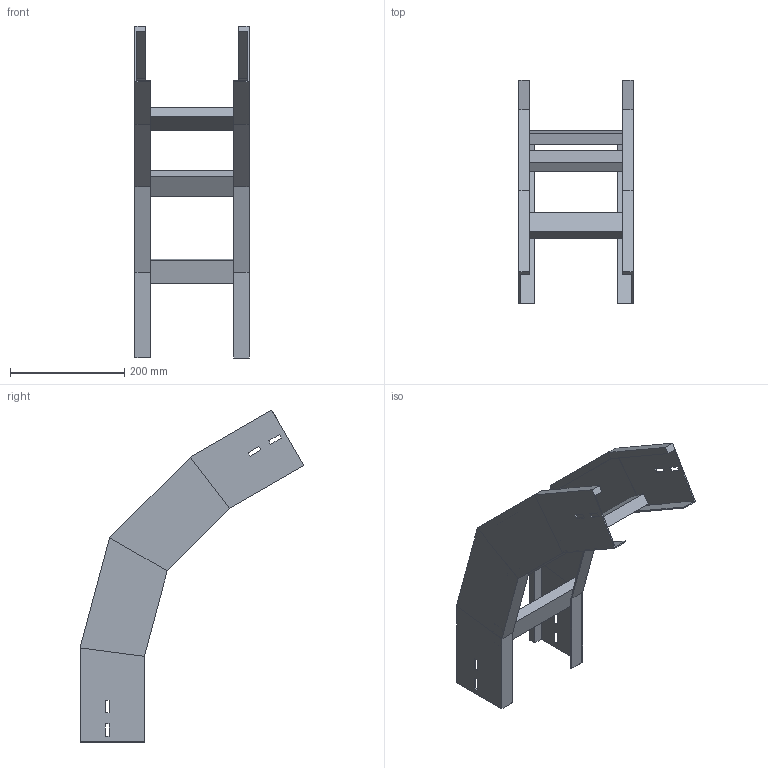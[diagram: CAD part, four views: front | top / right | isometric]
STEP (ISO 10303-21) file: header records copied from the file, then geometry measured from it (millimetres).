
FILE_DESCRIPTION (( 'STEP AP214' ), '1' );
FILE_NAME ('A2_41B3J200.step', '2025-02-21T14:58:12', ( '' ), ( '' ), 'SwSTEP 2.0', 'SolidWorks 2023', '' );
FILE_SCHEMA (( 'AUTOMOTIVE_DESIGN' ));
Length unit declared in the file: millimetre
Products named in the file (3): A2_41B3J200; TRAVERSINO_200; LONGH.DISCESA_60°_H112.5_R300
Assembly tree (5 placements, depth 2):
  A2_41B3J200
    LONGH.DISCESA_60°_H112.5_R300  x2
    TRAVERSINO_200  x3
Bounding box: 200 x 392.12 x 581.75 mm (x, y, z)
Volume: 1114009.3 mm3; surface area: 490481.2 mm2
Topology: 5 solids, 5 shells, 118 faces, 276 edges, 168 vertices
Faces by surface type: plane 118
Entity records: 1672 total; most frequent: CARTESIAN_POINT 276, ORIENTED_EDGE 264, DIRECTION 260, VECTOR 132, EDGE_CURVE 132, LINE 132, VERTEX_POINT 80, EDGE_LOOP 64
